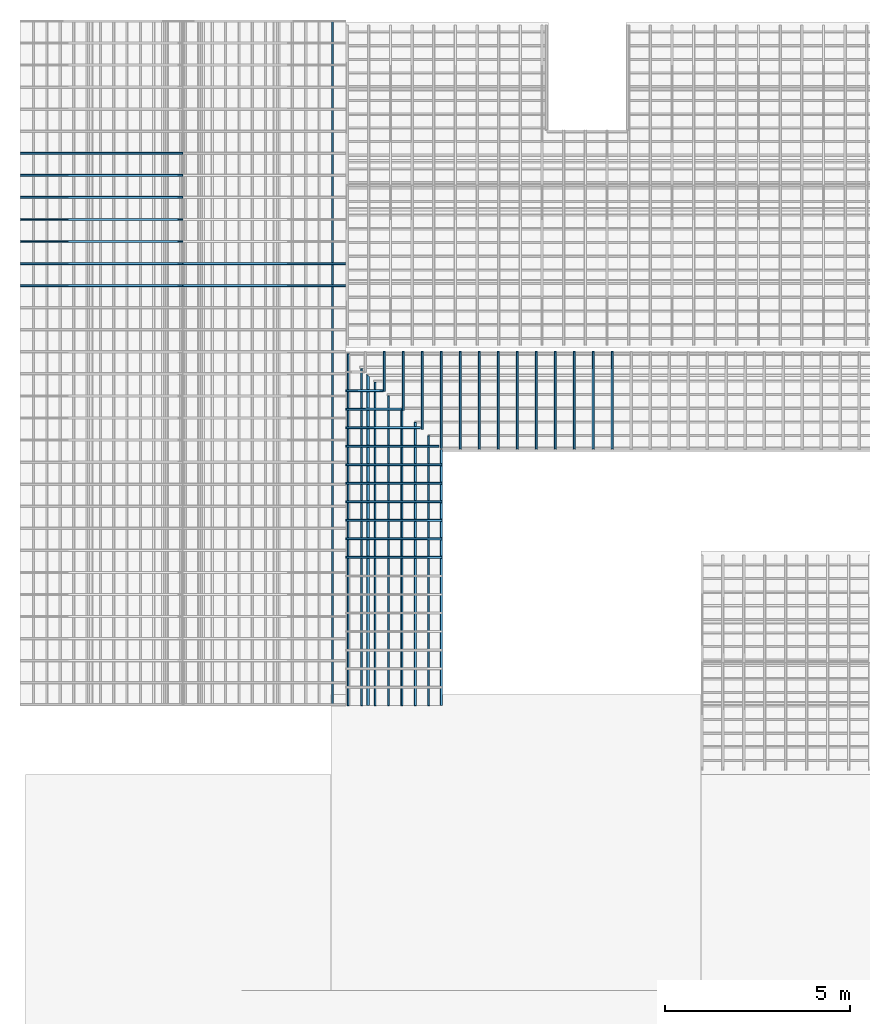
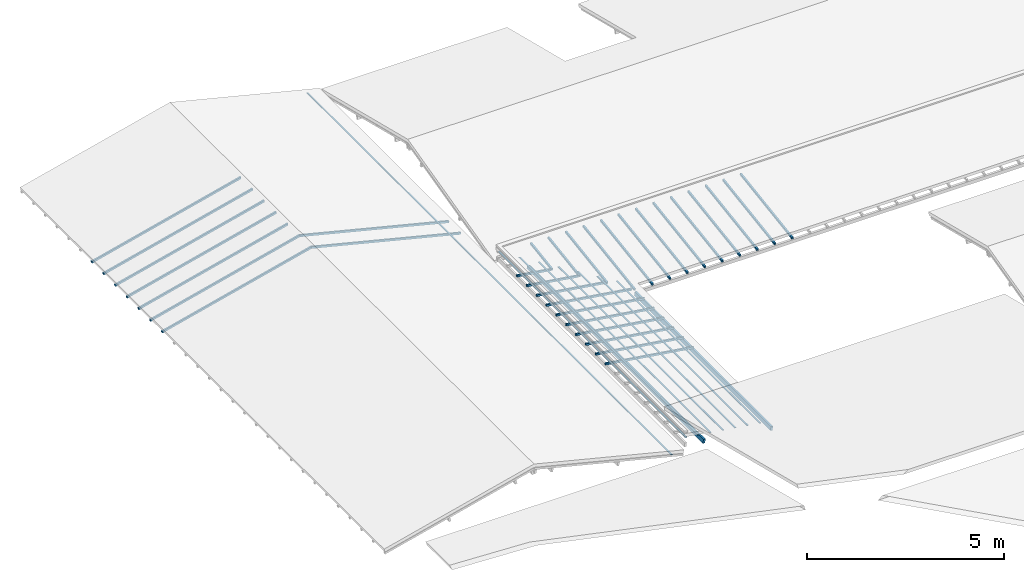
# One storey, part 4 of 10: 42 members, 5 elements without a shape of their own.
"""IFC2X3 building model written with IfcOpenShell, lengths in metres."""

from ifc_helpers import new_model, entity, si_unit, converted_unit, derived_unit, direction, frame, frame_2d, origin, origin_2d_with_axis, place, context, subcontext, project, spatial, rectangle, extrude, clip, halfspace, source, transform, mapped, material, type_object, type_shapes, element, aggregate, save


model = new_model("IFC2X3")

# Units and contexts
model_context = context("Model", 3, precision=1e-05, world=origin(), true_north=direction((6.12303176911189e-17, 1.0)))
body_context = subcontext(model_context, "Body", "Model", "MODEL_VIEW")
ifc_project = project(units=[si_unit("LENGTHUNIT", "METRE"), si_unit("AREAUNIT", "SQUARE_METRE"), si_unit("VOLUMEUNIT", "CUBIC_METRE"), converted_unit("PLANEANGLEUNIT", "DEGREE", entity("IfcRatioMeasure", 0.0174532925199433), si_unit("PLANEANGLEUNIT", "RADIAN"), dimensions=[0, 0, 0, 0, 0, 0, 0]), si_unit("MASSUNIT", "GRAM", prefix="KILO"), derived_unit("MASSDENSITYUNIT", [(si_unit("MASSUNIT", "GRAM", prefix="KILO"), 1), (si_unit("LENGTHUNIT", "METRE"), -3)]), si_unit("TIMEUNIT", "SECOND"), si_unit("FREQUENCYUNIT", "HERTZ"), si_unit("THERMODYNAMICTEMPERATUREUNIT", "DEGREE_CELSIUS"), derived_unit("THERMALTRANSMITTANCEUNIT", [(si_unit("MASSUNIT", "GRAM", prefix="KILO"), 1), (si_unit("THERMODYNAMICTEMPERATUREUNIT", "KELVIN"), -1), (si_unit("TIMEUNIT", "SECOND"), -3)]), derived_unit("VOLUMETRICFLOWRATEUNIT", [(si_unit("LENGTHUNIT", "METRE"), 3), (si_unit("TIMEUNIT", "SECOND"), -1)]), si_unit("ELECTRICCURRENTUNIT", "AMPERE"), si_unit("ELECTRICVOLTAGEUNIT", "VOLT"), si_unit("POWERUNIT", "WATT"), si_unit("FORCEUNIT", "NEWTON", prefix="KILO"), si_unit("ILLUMINANCEUNIT", "LUX"), si_unit("LUMINOUSFLUXUNIT", "LUMEN"), si_unit("LUMINOUSINTENSITYUNIT", "CANDELA"), derived_unit("USERDEFINED", [(si_unit("MASSUNIT", "GRAM", prefix="KILO"), -1), (si_unit("LENGTHUNIT", "METRE"), -2), (si_unit("TIMEUNIT", "SECOND"), 3), (si_unit("LUMINOUSFLUXUNIT", "LUMEN"), 1)]), derived_unit("LINEARVELOCITYUNIT", [(si_unit("LENGTHUNIT", "METRE"), 1), (si_unit("TIMEUNIT", "SECOND"), -1)]), si_unit("PRESSUREUNIT", "PASCAL"), derived_unit("USERDEFINED", [(si_unit("LENGTHUNIT", "METRE"), -2), (si_unit("MASSUNIT", "GRAM", prefix="KILO"), 1), (si_unit("TIMEUNIT", "SECOND"), -2)])], contexts=[model_context])

# Site, building, storey
site_placement = place(None, frame((26.9889013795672, -17.5624287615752, 0.0)))
site = spatial("IfcSite", under=ifc_project, at=site_placement, Name="Default", CompositionType="ELEMENT")
building_placement = place(site_placement, origin())
building = spatial("IfcBuilding", under=site, at=building_placement, Name="C. C. L. Monsenhor Antônio Sampaio", CompositionType="ELEMENT")
storey_placement = place(building_placement, frame((0.0, 0.0, 4.3)))
storey = spatial("IfcBuildingStorey", under=building, at=storey_placement, Name="COBERTURA BLOCO 01", CompositionType="ELEMENT", Elevation=4.3)

# Roof, members
curtain_wall_type_1 = type_object("IfcCurtainWallType", PredefinedType="NOTDEFINED")
roof_1_placement = place(storey_placement, frame((0.0, 0.0, -4.3)))
roof_1 = element("IfcRoof", 1, at=roof_1_placement, inside=storey, type_object=curtain_wall_type_1, ShapeType="NOTDEFINED")
ifc_material = material(Name=".Madeira")
member_type_1 = type_object("IfcMemberType", Name="Terça", PredefinedType="MEMBER")
shared_shape_1 = source(origin(), body_context, "Body", "SweptSolid", [
    extrude(rectangle(XDim=0.12, YDim=0.0599999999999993, at=origin_2d_with_axis()), frame((-0.0299999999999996, -0.06, -6.91483404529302), z_axis=(0.0, 0.0, 1.0), x_axis=(0.0, -1.0, 0.0)), (0.0, 0.0, 1.0), 6.91483404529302),
])
type_shapes(member_type_1, [shared_shape_1])
member_1_placement = place(storey_placement, frame((-3.25538633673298, -19.5382322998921, 0.00222510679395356), z_axis=(0.0, 1.0, 0.0), x_axis=(0.988936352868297, 0.0, -0.148340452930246)))
member_1 = element("IfcMember", 2, at=member_1_placement, type_object=member_type_1, material=ifc_material, Name="Rectangular Mullion:Terça", ObjectType="Terça", context=body_context, shape_type="MappedRepresentation", body=[
    mapped(shared_shape_1, transform((0.0, 0.0, 0.0), scale=1.0)),
])
member_type_2 = type_object("IfcMemberType", Name="Terça", PredefinedType="MEMBER")
shared_shape_2 = source(origin(), body_context, "Body", "Clipping", [
    clip(extrude(rectangle(XDim=0.12, YDim=0.0599999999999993, at=origin_2d_with_axis()), frame((0.0, -0.06, -8.95204293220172), z_axis=(0.0, 0.0, 1.0), x_axis=(0.0, -1.0, 0.0)), (0.0, 0.0, 1.0), 8.95204293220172), halfspace(frame((0.0452141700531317, -0.301427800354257, -8.92237484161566), z_axis=(-0.699283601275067, -0.104892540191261, -0.707106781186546), x_axis=(-0.699283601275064, -0.10489254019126, 0.707106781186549)), False)),
])
type_shapes(member_type_2, [shared_shape_2])
member_2_placement = place(storey_placement, frame((-5.26292713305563, -26.4530663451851, 0.303356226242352), z_axis=(0.0, -1.0, 0.0), x_axis=(-0.988936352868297, 0.0, 0.148340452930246)))
member_2 = element("IfcMember", 3, at=member_2_placement, type_object=member_type_2, material=ifc_material, Name="Rectangular Mullion:Terça", ObjectType="Terça", context=body_context, shape_type="MappedRepresentation", body=[
    mapped(shared_shape_2, transform((0.0, 0.0, 0.0), scale=1.0)),
])
aggregate(roof_1, [member_1, member_2])

# Roof, member
curtain_wall_type_2 = type_object("IfcCurtainWallType", PredefinedType="NOTDEFINED")
roof_2_placement = place(storey_placement, frame((0.0, 0.0, -4.3)))
roof_2 = element("IfcRoof", 4, at=roof_2_placement, inside=storey, type_object=curtain_wall_type_2, ShapeType="NOTDEFINED")
member_type_3 = type_object("IfcMemberType", Name="Ripa", PredefinedType="MEMBER")
shared_shape_3 = source(origin(), body_context, "Body", "SweptSolid", [
    extrude(rectangle(XDim=0.015, YDim=0.05, at=frame_2d((-1.69135538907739e-17, 0.0), x_axis=(1.0, 0.0))), frame((0.025, -0.1875, -18.4961739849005), z_axis=(0.0, 0.0, 1.0), x_axis=(0.0, -1.0, 0.0)), (0.0, 0.0, 1.0), 18.4961739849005),
])
type_shapes(member_type_3, [shared_shape_3])
member_3_placement = place(storey_placement, frame((-6.23238202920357, -26.4530663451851, 0.095466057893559), z_axis=(0.0, -1.0, 0.0), x_axis=(-0.970142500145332, 0.0, 0.242535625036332)))
member_3 = element("IfcMember", 5, at=member_3_placement, type_object=member_type_3, material=ifc_material, Name="Rectangular Mullion:Ripa", ObjectType="Ripa", context=body_context, shape_type="MappedRepresentation", body=[
    mapped(shared_shape_3, transform((0.0, 0.0, 0.0), scale=1.0)),
])
aggregate(roof_2, [member_3])

# Roof, members
curtain_wall_type_3 = type_object("IfcCurtainWallType", PredefinedType="NOTDEFINED")
roof_3_placement = place(storey_placement, frame((0.0, 0.0, -4.3)))
roof_3 = element("IfcRoof", 6, at=roof_3_placement, inside=storey, type_object=curtain_wall_type_3, ShapeType="NOTDEFINED")
member_type_4 = type_object("IfcMemberType", Name="Caibro", PredefinedType="MEMBER")
shared_shape_4 = source(origin(), body_context, "Body", "Clipping", [
    clip(extrude(rectangle(XDim=0.06, YDim=0.0499999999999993, at=origin_2d_with_axis()), frame((0.0, -0.03, -4.50666618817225), z_axis=(0.0, 0.0, 1.0), x_axis=(0.0, -1.0, 0.0)), (0.0, 0.0, 1.0), 4.52166618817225), halfspace(frame((-0.3048, 0.0, 0.0), z_axis=(0.0, 0.242535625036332, 0.970142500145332), x_axis=(0.0, 0.970142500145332, -0.242535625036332)), False)),
])
type_shapes(member_type_4, [shared_shape_4])
member_4_placement = place(storey_placement, frame((-10.2441903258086, -15.1223468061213, 1.22274577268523), z_axis=(-0.970142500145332, 0.0, 0.242535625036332), x_axis=(0.0, 1.0, 0.0)))
member_4 = element("IfcMember", 7, at=member_4_placement, type_object=member_type_4, material=ifc_material, Name="Rectangular Mullion:Caibro", ObjectType="Caibro", context=body_context, shape_type="MappedRepresentation", body=[
    mapped(shared_shape_4, transform((0.0, 0.0, 0.0), scale=1.0)),
])
member_5_placement = place(storey_placement, frame((-10.2441903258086, -14.5273089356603, 1.22274577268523), z_axis=(-0.970142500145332, 0.0, 0.242535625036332), x_axis=(0.0, 1.0, 0.0)))
member_5 = element("IfcMember", 8, at=member_5_placement, type_object=member_type_4, material=ifc_material, Name="Rectangular Mullion:Caibro", ObjectType="Caibro", context=body_context, shape_type="MappedRepresentation", body=[
    mapped(shared_shape_4, transform((0.0, 0.0, 0.0), scale=1.0)),
])
member_6_placement = place(storey_placement, frame((-10.2441903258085, -11.5521195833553, 1.22274577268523), z_axis=(0.970142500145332, 0.0, 0.242535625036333), x_axis=(0.0, -1.0, 0.0)))
member_6 = element("IfcMember", 9, at=member_6_placement, type_object=member_type_4, material=ifc_material, Name="Rectangular Mullion:Caibro", ObjectType="Caibro", context=body_context, shape_type="MappedRepresentation", body=[
    mapped(shared_shape_4, transform((0.0, 0.0, 0.0), scale=1.0)),
])
member_7_placement = place(storey_placement, frame((-10.2441903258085, -12.1471574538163, 1.22274577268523), z_axis=(0.970142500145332, 0.0, 0.242535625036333), x_axis=(0.0, -1.0, 0.0)))
member_7 = element("IfcMember", 10, at=member_7_placement, type_object=member_type_4, material=ifc_material, Name="Rectangular Mullion:Caibro", ObjectType="Caibro", context=body_context, shape_type="MappedRepresentation", body=[
    mapped(shared_shape_4, transform((0.0, 0.0, 0.0), scale=1.0)),
])
member_8_placement = place(storey_placement, frame((-10.2441903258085, -12.7421953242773, 1.22274577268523), z_axis=(0.970142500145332, 0.0, 0.242535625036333), x_axis=(0.0, -1.0, 0.0)))
member_8 = element("IfcMember", 11, at=member_8_placement, type_object=member_type_4, material=ifc_material, Name="Rectangular Mullion:Caibro", ObjectType="Caibro", context=body_context, shape_type="MappedRepresentation", body=[
    mapped(shared_shape_4, transform((0.0, 0.0, 0.0), scale=1.0)),
])
member_9_placement = place(storey_placement, frame((-10.2441903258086, -13.3372331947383, 1.22274577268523), z_axis=(0.970142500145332, 0.0, 0.242535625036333), x_axis=(0.0, -1.0, 0.0)))
member_9 = element("IfcMember", 12, at=member_9_placement, type_object=member_type_4, material=ifc_material, Name="Rectangular Mullion:Caibro", ObjectType="Caibro", context=body_context, shape_type="MappedRepresentation", body=[
    mapped(shared_shape_4, transform((0.0, 0.0, 0.0), scale=1.0)),
])
member_10_placement = place(storey_placement, frame((-10.2441903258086, -13.9322710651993, 1.22274577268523), z_axis=(0.970142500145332, 0.0, 0.242535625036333), x_axis=(0.0, -1.0, 0.0)))
member_10 = element("IfcMember", 13, at=member_10_placement, type_object=member_type_4, material=ifc_material, Name="Rectangular Mullion:Caibro", ObjectType="Caibro", context=body_context, shape_type="MappedRepresentation", body=[
    mapped(shared_shape_4, transform((0.0, 0.0, 0.0), scale=1.0)),
])
member_11_placement = place(storey_placement, frame((-10.2441903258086, -14.5273089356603, 1.22274577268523), z_axis=(0.970142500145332, 0.0, 0.242535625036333), x_axis=(0.0, -1.0, 0.0)))
member_11 = element("IfcMember", 14, at=member_11_placement, type_object=member_type_4, material=ifc_material, Name="Rectangular Mullion:Caibro", ObjectType="Caibro", context=body_context, shape_type="MappedRepresentation", body=[
    mapped(shared_shape_4, transform((0.0, 0.0, 0.0), scale=1.0)),
])
member_12_placement = place(storey_placement, frame((-10.2441903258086, -15.1223468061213, 1.22274577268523), z_axis=(0.970142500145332, 0.0, 0.242535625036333), x_axis=(0.0, -1.0, 0.0)))
member_12 = element("IfcMember", 15, at=member_12_placement, type_object=member_type_4, material=ifc_material, Name="Rectangular Mullion:Caibro", ObjectType="Caibro", context=body_context, shape_type="MappedRepresentation", body=[
    mapped(shared_shape_4, transform((0.0, 0.0, 0.0), scale=1.0)),
])
aggregate(roof_3, [member_4, member_5, member_6, member_7, member_8, member_9, member_10, member_11, member_12])

roof_4_placement = place(storey_placement, frame((0.0, 0.0, -4.3)))
roof_4 = element("IfcRoof", 16, at=roof_4_placement, inside=storey, type_object=curtain_wall_type_2, ShapeType="NOTDEFINED")
member_type_5 = type_object("IfcMemberType", Name="Ripa", PredefinedType="MEMBER")
shared_shape_5 = source(origin(), body_context, "Body", "SweptSolid", [
    extrude(rectangle(XDim=0.015, YDim=0.05, at=frame_2d((-1.69135538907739e-17, 0.0), x_axis=(1.0, 0.0))), frame((-0.025, -0.1875, -9.50000000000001), z_axis=(0.0, 0.0, 1.0), x_axis=(0.0, -1.0, 0.0)), (0.0, 0.0, 1.0), 9.50000000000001),
])
type_shapes(member_type_5, [shared_shape_5])
member_13_placement = place(storey_placement, frame((-5.84055229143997, -26.4530663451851, 0.491118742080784), z_axis=(0.0, -1.0, 0.0), x_axis=(-0.988936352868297, 0.0, 0.148340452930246)))
member_13 = element("IfcMember", 17, at=member_13_placement, type_object=member_type_5, material=ifc_material, Name="Rectangular Mullion:Ripa", ObjectType="Ripa", context=body_context, shape_type="MappedRepresentation", body=[
    mapped(shared_shape_5, transform((0.0, 0.0, 0.0), scale=1.0)),
])
member_type_6 = type_object("IfcMemberType", Name="Ripa", PredefinedType="MEMBER")
shared_shape_6 = source(origin(), body_context, "Body", "SweptSolid", [
    extrude(rectangle(XDim=0.015, YDim=0.05, at=frame_2d((-1.69135538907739e-17, 0.0), x_axis=(1.0, 0.0))), frame((0.025, -0.1875, -7.2770796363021), z_axis=(0.0, 0.0, 1.0), x_axis=(0.0, -1.0, 0.0)), (0.0, 0.0, 1.0), 7.2770796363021),
])
type_shapes(member_type_6, [shared_shape_6])
member_14_placement = place(storey_placement, frame((-3.61763192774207, -26.4530663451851, 0.157680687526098), z_axis=(0.0, -1.0, 0.0), x_axis=(-0.988936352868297, 0.0, 0.148340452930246)))
member_14 = element("IfcMember", 18, at=member_14_placement, type_object=member_type_6, material=ifc_material, Name="Rectangular Mullion:Ripa", ObjectType="Ripa", context=body_context, shape_type="MappedRepresentation", body=[
    mapped(shared_shape_6, transform((0.0, 0.0, 0.0), scale=1.0)),
])
member_type_7 = type_object("IfcMemberType", Name="Ripa", PredefinedType="MEMBER")
shared_shape_7 = source(origin(), body_context, "Body", "SweptSolid", [
    extrude(rectangle(XDim=0.015, YDim=0.05, at=frame_2d((-1.69135538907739e-17, 0.0), x_axis=(1.0, 0.0))), frame((0.025, -0.1875, -7.63932522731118), z_axis=(0.0, 0.0, 1.0), x_axis=(0.0, -1.0, 0.0)), (0.0, 0.0, 1.0), 7.63932522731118),
])
type_shapes(member_type_7, [shared_shape_7])
member_15_placement = place(storey_placement, frame((-3.97987751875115, -26.4530663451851, 0.21201752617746), z_axis=(0.0, -1.0, 0.0), x_axis=(-0.988936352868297, 0.0, 0.148340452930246)))
member_15 = element("IfcMember", 19, at=member_15_placement, type_object=member_type_7, material=ifc_material, Name="Rectangular Mullion:Ripa", ObjectType="Ripa", context=body_context, shape_type="MappedRepresentation", body=[
    mapped(shared_shape_7, transform((0.0, 0.0, 0.0), scale=1.0)),
])
member_type_8 = type_object("IfcMemberType", Name="Ripa", PredefinedType="MEMBER")
shared_shape_8 = source(origin(), body_context, "Body", "SweptSolid", [
    extrude(rectangle(XDim=0.015, YDim=0.05, at=frame_2d((-1.69135538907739e-17, 0.0), x_axis=(1.0, 0.0))), frame((0.025, -0.1875, -8.00157081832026), z_axis=(0.0, 0.0, 1.0), x_axis=(0.0, -1.0, 0.0)), (0.0, 0.0, 1.0), 8.00157081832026),
])
type_shapes(member_type_8, [shared_shape_8])
member_16_placement = place(storey_placement, frame((-4.34212310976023, -26.4530663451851, 0.266354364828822), z_axis=(0.0, -1.0, 0.0), x_axis=(-0.988936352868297, 0.0, 0.148340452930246)))
member_16 = element("IfcMember", 20, at=member_16_placement, type_object=member_type_8, material=ifc_material, Name="Rectangular Mullion:Ripa", ObjectType="Ripa", context=body_context, shape_type="MappedRepresentation", body=[
    mapped(shared_shape_8, transform((0.0, 0.0, 0.0), scale=1.0)),
])
member_type_9 = type_object("IfcMemberType", Name="Ripa", PredefinedType="MEMBER")
shared_shape_9 = source(origin(), body_context, "Body", "SweptSolid", [
    extrude(rectangle(XDim=0.015, YDim=0.05, at=frame_2d((-1.69135538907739e-17, 0.0), x_axis=(1.0, 0.0))), frame((0.025, -0.1875, -8.36381640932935), z_axis=(0.0, 0.0, 1.0), x_axis=(0.0, -1.0, 0.0)), (0.0, 0.0, 1.0), 8.36381640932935),
])
type_shapes(member_type_9, [shared_shape_9])
member_17_placement = place(storey_placement, frame((-4.70436870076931, -26.4530663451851, 0.320691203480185), z_axis=(0.0, -1.0, 0.0), x_axis=(-0.988936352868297, 0.0, 0.148340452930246)))
member_17 = element("IfcMember", 21, at=member_17_placement, type_object=member_type_9, material=ifc_material, Name="Rectangular Mullion:Ripa", ObjectType="Ripa", context=body_context, shape_type="MappedRepresentation", body=[
    mapped(shared_shape_9, transform((0.0, 0.0, 0.0), scale=1.0)),
])
member_type_10 = type_object("IfcMemberType", Name="Ripa", PredefinedType="MEMBER")
shared_shape_10 = source(origin(), body_context, "Body", "SweptSolid", [
    extrude(rectangle(XDim=0.015, YDim=0.05, at=frame_2d((-1.69135538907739e-17, 0.0), x_axis=(1.0, 0.0))), frame((0.025, -0.1875, -8.72606200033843), z_axis=(0.0, 0.0, 1.0), x_axis=(0.0, -1.0, 0.0)), (0.0, 0.0, 1.0), 8.72606200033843),
])
type_shapes(member_type_10, [shared_shape_10])
member_18_placement = place(storey_placement, frame((-5.06661429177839, -26.4530663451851, 0.375028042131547), z_axis=(0.0, -1.0, 0.0), x_axis=(-0.988936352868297, 0.0, 0.148340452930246)))
member_18 = element("IfcMember", 22, at=member_18_placement, type_object=member_type_10, material=ifc_material, Name="Rectangular Mullion:Ripa", ObjectType="Ripa", context=body_context, shape_type="MappedRepresentation", body=[
    mapped(shared_shape_10, transform((0.0, 0.0, 0.0), scale=1.0)),
])
member_type_11 = type_object("IfcMemberType", Name="Ripa", PredefinedType="MEMBER")
shared_shape_11 = source(origin(), body_context, "Body", "SweptSolid", [
    extrude(rectangle(XDim=0.015, YDim=0.05, at=frame_2d((-1.69135538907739e-17, 0.0), x_axis=(1.0, 0.0))), frame((0.025, -0.1875, -9.08830759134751), z_axis=(0.0, 0.0, 1.0), x_axis=(0.0, -1.0, 0.0)), (0.0, 0.0, 1.0), 9.08830759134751),
])
type_shapes(member_type_11, [shared_shape_11])
member_19_placement = place(storey_placement, frame((-5.42885988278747, -26.4530663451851, 0.429364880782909), z_axis=(0.0, -1.0, 0.0), x_axis=(-0.988936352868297, 0.0, 0.148340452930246)))
member_19 = element("IfcMember", 23, at=member_19_placement, type_object=member_type_11, material=ifc_material, Name="Rectangular Mullion:Ripa", ObjectType="Ripa", context=body_context, shape_type="MappedRepresentation", body=[
    mapped(shared_shape_11, transform((0.0, 0.0, 0.0), scale=1.0)),
])
aggregate(roof_4, [member_13, member_14, member_15, member_16, member_17, member_18, member_19])

curtain_wall_type_4 = type_object("IfcCurtainWallType", PredefinedType="NOTDEFINED")
roof_5_placement = place(storey_placement, frame((0.0, 0.0, -4.3)))
roof_5 = element("IfcRoof", 24, at=roof_5_placement, inside=storey, type_object=curtain_wall_type_4, ShapeType="NOTDEFINED")
member_type_12 = type_object("IfcMemberType", Name="6x5 cm", PredefinedType="MEMBER")
shared_shape_12 = source(origin(), body_context, "Body", "SweptSolid", [
    extrude(rectangle(XDim=0.06, YDim=0.05, at=origin_2d_with_axis()), frame((0.0, 0.05, -1.08672906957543), z_axis=(0.0, 0.0, 1.0), x_axis=(0.0, -1.0, 0.0)), (0.0, 0.0, 1.0), 1.08672906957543),
])
type_shapes(member_type_12, [shared_shape_12])
member_20_placement = place(storey_placement, frame((-4.81584640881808, -16.9030663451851, 0.599737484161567), z_axis=(0.0, 0.988936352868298, 0.148340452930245), x_axis=(1.0, 0.0, 0.0)))
member_20 = element("IfcMember", 25, at=member_20_placement, type_object=member_type_12, material=ifc_material, Name="Rectangular Mullion:6x5 cm", ObjectType="6x5 cm", context=body_context, shape_type="MappedRepresentation", body=[
    mapped(shared_shape_12, transform((0.0, 0.0, 0.0), scale=1.0)),
])
member_type_13 = type_object("IfcMemberType", Name="6x5 cm", PredefinedType="MEMBER")
shared_shape_13 = source(origin(), body_context, "Body", "SweptSolid", [
    extrude(rectangle(XDim=0.06, YDim=0.05, at=origin_2d_with_axis()), frame((0.0, 0.05, -1.60481391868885), z_axis=(0.0, 0.0, 1.0), x_axis=(0.0, -1.0, 0.0)), (0.0, 0.0, 1.0), 1.60481391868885),
])
type_shapes(member_type_13, [shared_shape_13])
member_21_placement = place(storey_placement, frame((-4.30349346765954, -16.9030663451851, 0.599737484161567), z_axis=(0.0, 0.988936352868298, 0.148340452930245), x_axis=(1.0, 0.0, 0.0)))
member_21 = element("IfcMember", 26, at=member_21_placement, type_object=member_type_13, material=ifc_material, Name="Rectangular Mullion:6x5 cm", ObjectType="6x5 cm", context=body_context, shape_type="MappedRepresentation", body=[
    mapped(shared_shape_13, transform((0.0, 0.0, 0.0), scale=1.0)),
])
member_type_14 = type_object("IfcMemberType", Name="6x5 cm", PredefinedType="MEMBER")
shared_shape_14 = source(origin(), body_context, "Body", "SweptSolid", [
    extrude(rectangle(XDim=0.06, YDim=0.05, at=origin_2d_with_axis()), frame((0.0, 0.05, -2.12289876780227), z_axis=(0.0, 0.0, 1.0), x_axis=(0.0, -1.0, 0.0)), (0.0, 0.0, 1.0), 2.12289876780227),
])
type_shapes(member_type_14, [shared_shape_14])
member_22_placement = place(storey_placement, frame((-3.791140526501, -16.9030663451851, 0.599737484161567), z_axis=(0.0, 0.988936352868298, 0.148340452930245), x_axis=(1.0, 0.0, 0.0)))
member_22 = element("IfcMember", 27, at=member_22_placement, type_object=member_type_14, material=ifc_material, Name="Rectangular Mullion:6x5 cm", ObjectType="6x5 cm", context=body_context, shape_type="MappedRepresentation", body=[
    mapped(shared_shape_14, transform((0.0, 0.0, 0.0), scale=1.0)),
])
member_type_15 = type_object("IfcMemberType", Name="6x5 cm", PredefinedType="MEMBER")
shared_shape_15 = source(origin(), body_context, "Body", "SweptSolid", [
    extrude(rectangle(XDim=0.06, YDim=0.05, at=origin_2d_with_axis()), frame((0.0, 0.05, -2.64098361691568), z_axis=(0.0, 0.0, 1.0), x_axis=(0.0, -1.0, 0.0)), (0.0, 0.0, 1.0), 2.64098361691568),
])
type_shapes(member_type_15, [shared_shape_15])
member_23_placement = place(storey_placement, frame((-3.27878758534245, -16.9030663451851, 0.599737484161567), z_axis=(0.0, 0.988936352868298, 0.148340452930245), x_axis=(1.0, 0.0, 0.0)))
member_23 = element("IfcMember", 28, at=member_23_placement, type_object=member_type_15, material=ifc_material, Name="Rectangular Mullion:6x5 cm", ObjectType="6x5 cm", context=body_context, shape_type="MappedRepresentation", body=[
    mapped(shared_shape_15, transform((0.0, 0.0, 0.0), scale=1.0)),
])
member_type_16 = type_object("IfcMemberType", Name="6x5 cm", PredefinedType="MEMBER")
shared_shape_16 = source(origin(), body_context, "Body", "SweptSolid", [
    extrude(rectangle(XDim=0.06, YDim=0.05, at=origin_2d_with_axis()), frame((0.0, 0.05, -2.66464666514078), z_axis=(0.0, 0.0, 1.0), x_axis=(0.0, -1.0, 0.0)), (0.0, 0.0, 1.0), 2.66464666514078),
])
type_shapes(member_type_16, [shared_shape_16])
member_24_placement = place(storey_placement, frame((-2.76643464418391, -16.9030663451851, 0.599737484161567), z_axis=(0.0, 0.988936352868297, 0.148340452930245), x_axis=(1.0, 0.0, 0.0)))
member_24 = element("IfcMember", 29, at=member_24_placement, type_object=member_type_16, material=ifc_material, Name="Rectangular Mullion:6x5 cm", ObjectType="6x5 cm", context=body_context, shape_type="MappedRepresentation", body=[
    mapped(shared_shape_16, transform((0.0, 0.0, 0.0), scale=1.0)),
])
member_25_placement = place(storey_placement, frame((-2.25408170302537, -16.9030663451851, 0.599737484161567), z_axis=(0.0, 0.988936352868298, 0.148340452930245), x_axis=(1.0, 0.0, 0.0)))
member_25 = element("IfcMember", 30, at=member_25_placement, type_object=member_type_16, material=ifc_material, Name="Rectangular Mullion:6x5 cm", ObjectType="6x5 cm", context=body_context, shape_type="MappedRepresentation", body=[
    mapped(shared_shape_16, transform((0.0, 0.0, 0.0), scale=1.0)),
])
member_26_placement = place(storey_placement, frame((-1.74172876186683, -16.9030663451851, 0.599737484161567), z_axis=(0.0, 0.988936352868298, 0.148340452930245), x_axis=(1.0, 0.0, 0.0)))
member_26 = element("IfcMember", 31, at=member_26_placement, type_object=member_type_16, material=ifc_material, Name="Rectangular Mullion:6x5 cm", ObjectType="6x5 cm", context=body_context, shape_type="MappedRepresentation", body=[
    mapped(shared_shape_16, transform((0.0, 0.0, 0.0), scale=1.0)),
])
member_27_placement = place(storey_placement, frame((-1.22937582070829, -16.9030663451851, 0.599737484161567), z_axis=(0.0, 0.988936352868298, 0.148340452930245), x_axis=(1.0, 0.0, 0.0)))
member_27 = element("IfcMember", 32, at=member_27_placement, type_object=member_type_16, material=ifc_material, Name="Rectangular Mullion:6x5 cm", ObjectType="6x5 cm", context=body_context, shape_type="MappedRepresentation", body=[
    mapped(shared_shape_16, transform((0.0, 0.0, 0.0), scale=1.0)),
])
member_28_placement = place(storey_placement, frame((-0.717022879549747, -16.9030663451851, 0.599737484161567), z_axis=(0.0, 0.988936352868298, 0.148340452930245), x_axis=(1.0, 0.0, 0.0)))
member_28 = element("IfcMember", 33, at=member_28_placement, type_object=member_type_16, material=ifc_material, Name="Rectangular Mullion:6x5 cm", ObjectType="6x5 cm", context=body_context, shape_type="MappedRepresentation", body=[
    mapped(shared_shape_16, transform((0.0, 0.0, 0.0), scale=1.0)),
])
member_29_placement = place(storey_placement, frame((-0.204669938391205, -16.9030663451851, 0.599737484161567), z_axis=(0.0, 0.988936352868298, 0.148340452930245), x_axis=(1.0, 0.0, 0.0)))
member_29 = element("IfcMember", 34, at=member_29_placement, type_object=member_type_16, material=ifc_material, Name="Rectangular Mullion:6x5 cm", ObjectType="6x5 cm", context=body_context, shape_type="MappedRepresentation", body=[
    mapped(shared_shape_16, transform((0.0, 0.0, 0.0), scale=1.0)),
])
member_30_placement = place(storey_placement, frame((0.307683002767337, -16.9030663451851, 0.599737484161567), z_axis=(0.0, 0.988936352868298, 0.148340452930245), x_axis=(1.0, 0.0, 0.0)))
member_30 = element("IfcMember", 35, at=member_30_placement, type_object=member_type_16, material=ifc_material, Name="Rectangular Mullion:6x5 cm", ObjectType="6x5 cm", context=body_context, shape_type="MappedRepresentation", body=[
    mapped(shared_shape_16, transform((0.0, 0.0, 0.0), scale=1.0)),
])
member_31_placement = place(storey_placement, frame((0.820035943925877, -16.9030663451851, 0.599737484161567), z_axis=(0.0, 0.988936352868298, 0.148340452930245), x_axis=(1.0, 0.0, 0.0)))
member_31 = element("IfcMember", 36, at=member_31_placement, type_object=member_type_16, material=ifc_material, Name="Rectangular Mullion:6x5 cm", ObjectType="6x5 cm", context=body_context, shape_type="MappedRepresentation", body=[
    mapped(shared_shape_16, transform((0.0, 0.0, 0.0), scale=1.0)),
])
member_32_placement = place(storey_placement, frame((1.33238888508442, -16.9030663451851, 0.599737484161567), z_axis=(0.0, 0.988936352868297, 0.148340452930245), x_axis=(1.0, 0.0, 0.0)))
member_32 = element("IfcMember", 37, at=member_32_placement, type_object=member_type_16, material=ifc_material, Name="Rectangular Mullion:6x5 cm", ObjectType="6x5 cm", context=body_context, shape_type="MappedRepresentation", body=[
    mapped(shared_shape_16, transform((0.0, 0.0, 0.0), scale=1.0)),
])
member_type_17 = type_object("IfcMemberType", Name="6x5 cm", PredefinedType="MEMBER")
shared_shape_17 = source(origin(), body_context, "Body", "SweptSolid", [
    extrude(rectangle(XDim=0.06, YDim=0.05, at=origin_2d_with_axis()), frame((0.0, 0.05, -2.61408729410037), z_axis=(0.0, 0.0, 1.0), x_axis=(0.0, -1.0, 0.0)), (0.0, 0.0, 1.0), 2.61408729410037),
])
type_shapes(member_type_17, [shared_shape_17])
member_33_placement = place(storey_placement, frame((-5.84055229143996, -22.453066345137, 0.592237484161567), z_axis=(-0.988936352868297, 0.0, 0.148340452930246), x_axis=(0.0, 1.0, 0.0)))
member_33 = element("IfcMember", 38, at=member_33_placement, type_object=member_type_17, material=ifc_material, Name="Rectangular Mullion:6x5 cm", ObjectType="6x5 cm", context=body_context, shape_type="MappedRepresentation", body=[
    mapped(shared_shape_17, transform((0.0, 0.0, 0.0), scale=1.0)),
])
member_34_placement = place(storey_placement, frame((-5.84055229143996, -21.953066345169, 0.592237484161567), z_axis=(-0.988936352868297, 0.0, 0.148340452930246), x_axis=(0.0, 1.0, 0.0)))
member_34 = element("IfcMember", 39, at=member_34_placement, type_object=member_type_17, material=ifc_material, Name="Rectangular Mullion:6x5 cm", ObjectType="6x5 cm", context=body_context, shape_type="MappedRepresentation", body=[
    mapped(shared_shape_17, transform((0.0, 0.0, 0.0), scale=1.0)),
])
member_35_placement = place(storey_placement, frame((-5.84055229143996, -21.4530663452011, 0.592237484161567), z_axis=(-0.988936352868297, 0.0, 0.148340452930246), x_axis=(0.0, 1.0, 0.0)))
member_35 = element("IfcMember", 40, at=member_35_placement, type_object=member_type_17, material=ifc_material, Name="Rectangular Mullion:6x5 cm", ObjectType="6x5 cm", context=body_context, shape_type="MappedRepresentation", body=[
    mapped(shared_shape_17, transform((0.0, 0.0, 0.0), scale=1.0)),
])
member_36_placement = place(storey_placement, frame((-5.84055229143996, -20.9530663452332, 0.592237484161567), z_axis=(-0.988936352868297, 0.0, 0.148340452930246), x_axis=(0.0, 1.0, 0.0)))
member_36 = element("IfcMember", 41, at=member_36_placement, type_object=member_type_17, material=ifc_material, Name="Rectangular Mullion:6x5 cm", ObjectType="6x5 cm", context=body_context, shape_type="MappedRepresentation", body=[
    mapped(shared_shape_17, transform((0.0, 0.0, 0.0), scale=1.0)),
])
member_37_placement = place(storey_placement, frame((-5.84055229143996, -20.4530663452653, 0.592237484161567), z_axis=(-0.988936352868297, 0.0, 0.148340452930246), x_axis=(0.0, 1.0, 0.0)))
member_37 = element("IfcMember", 42, at=member_37_placement, type_object=member_type_17, material=ifc_material, Name="Rectangular Mullion:6x5 cm", ObjectType="6x5 cm", context=body_context, shape_type="MappedRepresentation", body=[
    mapped(shared_shape_17, transform((0.0, 0.0, 0.0), scale=1.0)),
])
member_38_placement = place(storey_placement, frame((-5.84055229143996, -19.9530663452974, 0.592237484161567), z_axis=(-0.988936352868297, 0.0, 0.148340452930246), x_axis=(0.0, 1.0, 0.0)))
member_38 = element("IfcMember", 43, at=member_38_placement, type_object=member_type_17, material=ifc_material, Name="Rectangular Mullion:6x5 cm", ObjectType="6x5 cm", context=body_context, shape_type="MappedRepresentation", body=[
    mapped(shared_shape_17, transform((0.0, 0.0, 0.0), scale=1.0)),
])
member_type_18 = type_object("IfcMemberType", Name="6x5 cm", PredefinedType="MEMBER")
shared_shape_18 = source(origin(), body_context, "Body", "SweptSolid", [
    extrude(rectangle(XDim=0.06, YDim=0.05, at=origin_2d_with_axis()), frame((0.0, 0.05, -2.52796855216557), z_axis=(0.0, 0.0, 1.0), x_axis=(0.0, -1.0, 0.0)), (0.0, 0.0, 1.0), 2.52796855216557),
])
type_shapes(member_type_18, [shared_shape_18])
member_39_placement = place(storey_placement, frame((-5.84055229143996, -19.4530663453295, 0.592237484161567), z_axis=(-0.988936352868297, 0.0, 0.148340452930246), x_axis=(0.0, 1.0, 0.0)))
member_39 = element("IfcMember", 44, at=member_39_placement, type_object=member_type_18, material=ifc_material, Name="Rectangular Mullion:6x5 cm", ObjectType="6x5 cm", context=body_context, shape_type="MappedRepresentation", body=[
    mapped(shared_shape_18, transform((0.0, 0.0, 0.0), scale=1.0)),
])
member_type_19 = type_object("IfcMemberType", Name="6x5 cm", PredefinedType="MEMBER")
shared_shape_19 = source(origin(), body_context, "Body", "SweptSolid", [
    extrude(rectangle(XDim=0.06, YDim=0.05, at=origin_2d_with_axis()), frame((0.0, 0.05, -2.0223748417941), z_axis=(0.0, 0.0, 1.0), x_axis=(0.0, -1.0, 0.0)), (0.0, 0.0, 1.0), 2.0223748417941),
])
type_shapes(member_type_19, [shared_shape_19])
member_40_placement = place(storey_placement, frame((-5.84055229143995, -18.9530663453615, 0.592237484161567), z_axis=(-0.988936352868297, 0.0, 0.148340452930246), x_axis=(0.0, 1.0, 0.0)))
member_40 = element("IfcMember", 45, at=member_40_placement, type_object=member_type_19, material=ifc_material, Name="Rectangular Mullion:6x5 cm", ObjectType="6x5 cm", context=body_context, shape_type="MappedRepresentation", body=[
    mapped(shared_shape_19, transform((0.0, 0.0, 0.0), scale=1.0)),
])
member_type_20 = type_object("IfcMemberType", Name="6x5 cm", PredefinedType="MEMBER")
shared_shape_20 = source(origin(), body_context, "Body", "SweptSolid", [
    extrude(rectangle(XDim=0.06, YDim=0.05, at=origin_2d_with_axis()), frame((0.0, 0.05, -1.51678113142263), z_axis=(0.0, 0.0, 1.0), x_axis=(0.0, -1.0, 0.0)), (0.0, 0.0, 1.0), 1.51678113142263),
])
type_shapes(member_type_20, [shared_shape_20])
member_41_placement = place(storey_placement, frame((-5.84055229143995, -18.4530663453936, 0.592237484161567), z_axis=(-0.988936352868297, 0.0, 0.148340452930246), x_axis=(0.0, 1.0, 0.0)))
member_41 = element("IfcMember", 46, at=member_41_placement, type_object=member_type_20, material=ifc_material, Name="Rectangular Mullion:6x5 cm", ObjectType="6x5 cm", context=body_context, shape_type="MappedRepresentation", body=[
    mapped(shared_shape_20, transform((0.0, 0.0, 0.0), scale=1.0)),
])
member_type_21 = type_object("IfcMemberType", Name="6x5 cm", PredefinedType="MEMBER")
shared_shape_21 = source(origin(), body_context, "Body", "SweptSolid", [
    extrude(rectangle(XDim=0.06, YDim=0.05, at=origin_2d_with_axis()), frame((0.0, 0.05, -1.01118742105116), z_axis=(0.0, 0.0, 1.0), x_axis=(0.0, -1.0, 0.0)), (0.0, 0.0, 1.0), 1.01118742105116),
])
type_shapes(member_type_21, [shared_shape_21])
member_42_placement = place(storey_placement, frame((-5.84055229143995, -17.9530663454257, 0.592237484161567), z_axis=(-0.988936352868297, 0.0, 0.148340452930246), x_axis=(0.0, 1.0, 0.0)))
member_42 = element("IfcMember", 47, at=member_42_placement, type_object=member_type_21, material=ifc_material, Name="Rectangular Mullion:6x5 cm", ObjectType="6x5 cm", context=body_context, shape_type="MappedRepresentation", body=[
    mapped(shared_shape_21, transform((0.0, 0.0, 0.0), scale=1.0)),
])
aggregate(roof_5, [member_20, member_21, member_22, member_23, member_24, member_25, member_26, member_27, member_28, member_29, member_30, member_31, member_32, member_33, member_34, member_35, member_36, member_37, member_38, member_39, member_40, member_41, member_42])

save(model, "model.ifc")
